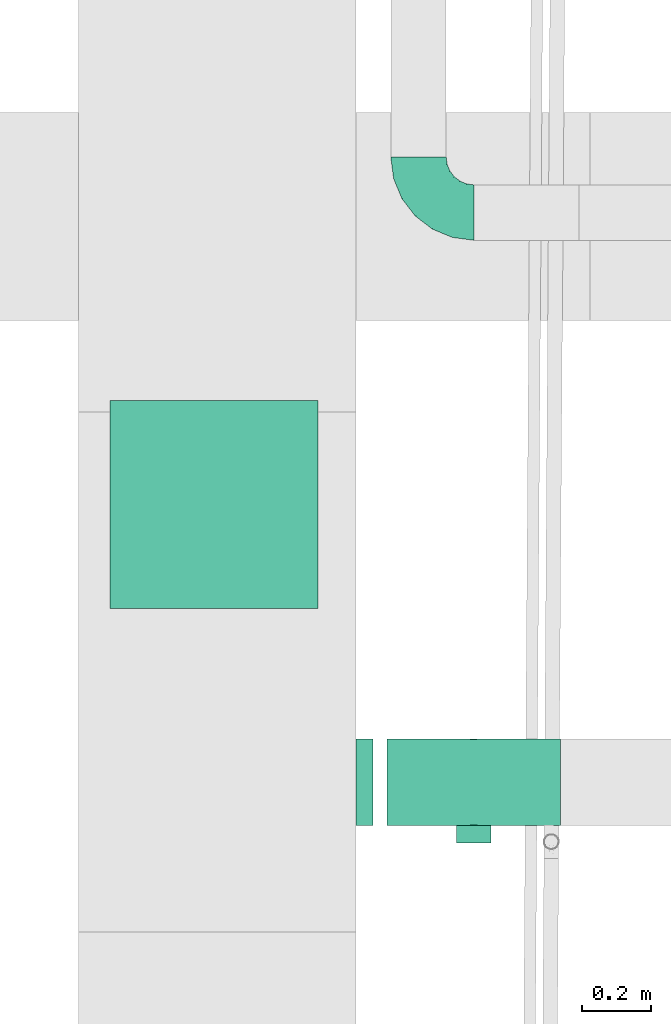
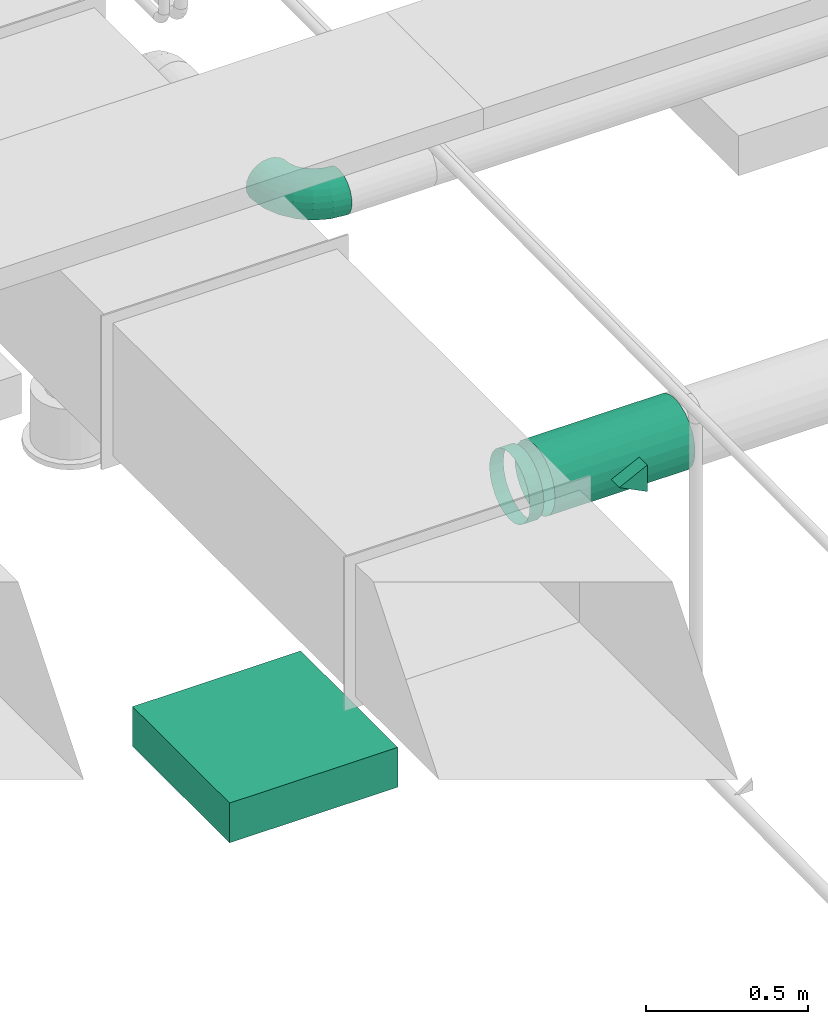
# One storey, part 160 of 374: 1 distribution element, 1 flow controller, 1 flow fitting, 1 flow segment.
"""IFC2X3 building model written with IfcOpenShell, lengths in metres."""

from ifc_helpers import new_model, si_unit, direction, frame, frame_2d, origin, place, context, subcontext, project, spatial, rectangle, extrude, open_shell, surface_model, source, transform, mapped, element, save


model = new_model("IFC2X3")

# Units and contexts
model_context = context("Model", 3, precision=1e-05, world=origin(), true_north=direction((-0.4480736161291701, 0.8939966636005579)))
body_context = subcontext(model_context, "Body", "Model", "MODEL_VIEW")
ifc_project = project(units=[si_unit("LENGTHUNIT", "METRE"), si_unit("AREAUNIT", "SQUARE_METRE"), si_unit("VOLUMEUNIT", "CUBIC_METRE"), si_unit("PLANEANGLEUNIT", "RADIAN"), si_unit("THERMODYNAMICTEMPERATUREUNIT", "KELVIN"), si_unit("MASSUNIT", "GRAM", prefix="KILO"), si_unit("TIMEUNIT", "SECOND")], contexts=[model_context])

# Site, building, storey
site_placement = place(None, origin())
site = spatial("IfcSite", under=ifc_project, at=site_placement, Name="Site 1", CompositionType="ELEMENT")
building_placement = place(site_placement, origin())
building = spatial("IfcBuilding", under=site, at=building_placement, Name="Undefined", CompositionType="ELEMENT")
storey_placement = place(building_placement, origin())
storey = spatial("IfcBuildingStorey", under=building, at=storey_placement, Name="Rez de chauss\x8ee", CompositionType="ELEMENT", Elevation=0.0)

# Flow fitting
shared_shape_1 = source(origin(), body_context, "Body", "SurfaceModel", [
    surface_model("IfcFaceBasedSurfaceModel", [(0.06265257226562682, -8.8817842e-16, 0.0), (0.062296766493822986, 0.02088115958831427, -7.105427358e-15), (0.0003558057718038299, 0.020881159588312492, 7.105427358e-15), (0.0, 0.0, 0.0), (-0.059474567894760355, 0.022956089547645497, -0.015896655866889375), (-0.06051773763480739, 0.002098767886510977, -0.01607928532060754), (-0.11311701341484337, 0.02696454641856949, -0.04660663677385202), (-0.11477645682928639, 0.006153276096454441, -0.04714207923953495), (-0.15691588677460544, 0.0326333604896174, -0.09003710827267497), (-0.15907851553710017, 0.01188721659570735, -0.09107150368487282), (-0.18788636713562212, 0.03957621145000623, -0.14322835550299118), (-0.1904048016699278, 0.01890983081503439, -0.14487384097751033), (-0.2039178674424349, 0.04731995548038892, -0.20255548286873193), (-0.20662048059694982, 0.026742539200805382, -0.20488255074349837), (0.061253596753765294, 0.04103889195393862, -0.0053597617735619), (0.0013989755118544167, 0.04103889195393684, -0.005359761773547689), (-0.05641614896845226, 0.04304393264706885, -0.02072097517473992), (-0.10825177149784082, 0.04691737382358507, -0.050396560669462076), (-0.15057538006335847, 0.05239524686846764, -0.09236417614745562), (-0.18050269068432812, 0.05910424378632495, -0.14376379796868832), (-0.19599420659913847, 0.06658715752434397, -0.20109262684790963), (0.05959415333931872, 0.05909948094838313, -0.01571402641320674), (0.003058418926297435, 0.05909948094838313, -0.01571402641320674), (-0.05155090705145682, 0.06099334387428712, -0.030223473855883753), (-0.10051228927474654, 0.06465200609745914, -0.058253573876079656), (-0.1404890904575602, 0.0698261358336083, -0.09789412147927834), (-0.16875695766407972, 0.0761631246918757, -0.14644367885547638), (-0.18338948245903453, 0.08323111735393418, -0.2005936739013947), (0.057431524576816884, 0.07383212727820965, -0.030357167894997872), (0.005221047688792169, 0.07383212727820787, -0.03035716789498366), (-0.0452104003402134, 0.07558110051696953, -0.04375657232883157), (-0.09042599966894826, 0.07895985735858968, -0.06964223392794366), (-0.12734438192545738, 0.08373814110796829, -0.10625008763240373), (-0.15344962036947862, 0.08959031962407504, -0.15108536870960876), (-0.16696268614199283, 0.0961175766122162, -0.20109262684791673), (0.054913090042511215, 0.0842328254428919, -0.048291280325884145), (0.007739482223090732, 0.08423282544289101, -0.04829128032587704), (-0.037826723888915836, 0.08581307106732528, -0.06039801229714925), (-0.07868026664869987, 0.08886587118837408, -0.08378642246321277), (-0.11203704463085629, 0.09318318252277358, -0.11686262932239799), (-0.13562384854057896, 0.09847078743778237, -0.1573725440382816), (-0.14783327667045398, 0.10436834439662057, -0.20255548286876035), (0.05221047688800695, 0.0895927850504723, -0.06829418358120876), (0.010442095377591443, 0.08959278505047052, -0.06829418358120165), (-0.029903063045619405, 0.09099196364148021, -0.07901370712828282), (-0.06607554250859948, 0.09369496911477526, -0.0997222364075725), (-0.0956102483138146, 0.0975175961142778, -0.12900851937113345), (-0.11649443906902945, 0.10219933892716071, -0.16487674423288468), (-0.12730489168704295, 0.1074211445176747, -0.2048825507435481), (0.04950786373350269, 0.08954673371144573, -0.08900271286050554), (0.013144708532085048, 0.08954673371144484, -0.08900271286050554), (-0.02197940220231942, 0.09076484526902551, -0.09833502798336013), (-0.05347081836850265, 0.09311805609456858, -0.11636367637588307), (-0.0791834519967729, 0.09644599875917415, -0.14186003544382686), (-0.09736502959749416, 0.10052187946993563, -0.17308657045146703), (-0.10677650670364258, 0.1050679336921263, -0.20791524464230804), (0.04698942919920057, 0.08409780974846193, -0.10900561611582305), (0.015663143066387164, 0.08409780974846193, -0.10900561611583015), (-0.014595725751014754, 0.08514719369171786, -0.11704525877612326), (-0.0417250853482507, 0.0871744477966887, -0.13257665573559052), (-0.06387611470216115, 0.09004141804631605, -0.15454136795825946), (-0.07953925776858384, 0.09355272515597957, -0.1814425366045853), (-0.08764709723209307, 0.09746907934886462, -0.21144689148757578), (0.04482680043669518, 0.0736173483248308, -0.12693972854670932), (0.017825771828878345, 0.0736173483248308, -0.12693972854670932), (-0.008255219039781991, 0.07452184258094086, -0.13386932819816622), (-0.03163879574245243, 0.0762691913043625, -0.14725628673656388), (-0.050731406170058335, 0.07874031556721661, -0.1661883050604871), (-0.06423192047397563, 0.08176681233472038, -0.18937519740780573), (-0.07122030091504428, 0.08514243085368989, -0.21523681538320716), (0.04316735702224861, 0.058819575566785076, -0.14158287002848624), (0.019485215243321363, 0.058819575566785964, -0.14158287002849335), (-0.0033899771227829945, 0.05961289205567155, -0.14766070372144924), (-0.02389931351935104, 0.06114546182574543, -0.15940217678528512), (-0.04064511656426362, 0.06331284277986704, -0.17600712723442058), (-0.052486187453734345, 0.06596733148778, -0.19634395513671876), (-0.05861557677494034, 0.06892802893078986, -0.2190267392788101), (0.04212418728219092, 0.040712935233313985, -0.15193713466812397), (0.020528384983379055, 0.040712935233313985, -0.15193713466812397), (-0.0003315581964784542, 0.041436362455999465, -0.15747952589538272), (-0.019034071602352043, 0.04283391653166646, -0.16818660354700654), (-0.03430460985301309, 0.04481035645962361, -0.1833286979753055), (-0.04510251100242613, 0.047230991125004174, -0.20187390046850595), (-0.05069191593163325, 0.04993085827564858, -0.22255838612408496), (0.04176838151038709, 0.02053136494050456, -0.15729689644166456), (0.020884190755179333, 0.02053136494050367, -0.15729689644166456), (0.0007116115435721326, 0.021230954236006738, -0.16265665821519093), (-0.017374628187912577, 0.022582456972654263, -0.17301092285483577), (-0.03214198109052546, 0.024493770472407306, -0.1876540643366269), (-0.042584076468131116, 0.026834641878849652, -0.20558817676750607), (-0.04798930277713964, 0.02944554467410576, -0.22559108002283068), (0.04212418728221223, -0.000349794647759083, -0.15729689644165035), (0.020528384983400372, -0.000349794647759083, -0.15729689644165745), (-0.0003315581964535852, 0.00037363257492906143, -0.1628392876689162), (-0.019034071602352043, 0.0017711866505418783, -0.17354636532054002), (-0.03430460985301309, 0.0037476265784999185, -0.18868845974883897), (-0.04510251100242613, 0.00616826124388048, -0.20723366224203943), (-0.05069191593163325, 0.008868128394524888, -0.22791814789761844), (0.04316735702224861, -0.020507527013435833, -0.15193713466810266), (0.019485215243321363, -0.020507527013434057, -0.15193713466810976), (-0.0033899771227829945, -0.019714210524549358, -0.15801496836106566), (-0.02389931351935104, -0.01818164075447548, -0.16975644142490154), (-0.04064511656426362, -0.01601425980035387, -0.186361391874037), (-0.052486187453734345, -0.013359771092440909, -0.20669821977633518), (-0.05861557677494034, -0.010399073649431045, -0.22938100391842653), (0.04482680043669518, -0.03856811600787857, -0.1415828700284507), (0.017825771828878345, -0.03856811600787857, -0.1415828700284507), (-0.008255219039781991, -0.03766362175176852, -0.1485124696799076), (-0.03163879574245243, -0.03591627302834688, -0.16189942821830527), (-0.050731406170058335, -0.03344514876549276, -0.1808314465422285), (-0.06423192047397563, -0.030418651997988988, -0.20401833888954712), (-0.07122030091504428, -0.027043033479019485, -0.22987995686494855), (0.04698942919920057, -0.05330076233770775, -0.12693972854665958), (0.015663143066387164, -0.05330076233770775, -0.12693972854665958), (-0.014595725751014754, -0.05225137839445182, -0.1349793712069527), (-0.0417250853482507, -0.05022412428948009, -0.15051076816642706), (-0.06387611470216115, -0.047357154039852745, -0.172475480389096), (-0.07953925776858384, -0.043845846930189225, -0.19937664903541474), (-0.08764709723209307, -0.03992949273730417, -0.2293810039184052), (0.04950786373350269, -0.06370146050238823, -0.10900561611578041), (0.013144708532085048, -0.06370146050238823, -0.10900561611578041), (-0.02197940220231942, -0.06248334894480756, -0.11833793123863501), (-0.05347081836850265, -0.06013013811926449, -0.13636657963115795), (-0.0791834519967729, -0.05680219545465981, -0.16186293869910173), (-0.09736502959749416, -0.05272631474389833, -0.1930894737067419), (-0.10677650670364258, -0.04818026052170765, -0.2279181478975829), (0.05221047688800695, -0.06906142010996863, -0.08900271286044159), (0.010442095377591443, -0.06906142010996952, -0.08900271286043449), (-0.029903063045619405, -0.06766224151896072, -0.09972223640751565), (-0.06607554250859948, -0.06495923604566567, -0.12043076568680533), (-0.0956102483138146, -0.06113660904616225, -0.14971704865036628), (-0.11649443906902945, -0.05645486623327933, -0.1855852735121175), (-0.12730489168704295, -0.05123306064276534, -0.22559108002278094), (0.054913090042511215, -0.06901536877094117, -0.06829418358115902), (0.007739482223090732, -0.06901536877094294, -0.06829418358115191), (-0.037826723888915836, -0.06743512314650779, -0.08040091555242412), (-0.07868026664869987, -0.06438232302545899, -0.10378932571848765), (-0.11203704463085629, -0.06006501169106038, -0.13686553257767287), (-0.13562384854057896, -0.0547774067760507, -0.17737544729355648), (-0.14783327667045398, -0.04887984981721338, -0.22255838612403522), (0.057431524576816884, -0.06356644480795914, -0.0482912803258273), (0.005221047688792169, -0.06356644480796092, -0.04829128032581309), (-0.0452104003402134, -0.061817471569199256, -0.0616906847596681), (-0.09042599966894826, -0.05843871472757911, -0.0875763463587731), (-0.12734438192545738, -0.05366043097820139, -0.12418420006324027), (-0.15344962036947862, -0.04780825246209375, -0.1690194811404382), (-0.16696268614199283, -0.041280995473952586, -0.21902673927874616), (0.05959415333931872, -0.05308598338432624, -0.030357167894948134), (0.003058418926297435, -0.05308598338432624, -0.030357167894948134), (-0.05155090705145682, -0.05119212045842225, -0.04486661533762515), (-0.10051228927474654, -0.04753345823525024, -0.07289671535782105), (-0.1404890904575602, -0.04235932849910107, -0.11253726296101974), (-0.16875695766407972, -0.03602233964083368, -0.16108682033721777), (-0.18338948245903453, -0.02895434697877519, -0.2152368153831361), (0.061253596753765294, -0.03828821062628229, -0.015714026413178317), (0.0013989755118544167, -0.03828821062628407, -0.015714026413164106), (-0.05641614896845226, -0.03628316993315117, -0.031075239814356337), (-0.10825177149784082, -0.03240972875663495, -0.06075082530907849), (-0.15057538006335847, -0.026931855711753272, -0.10271844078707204), (-0.18050269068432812, -0.02022285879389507, -0.15411806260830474), (-0.19599420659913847, -0.012739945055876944, -0.21144689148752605), (0.062296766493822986, -0.020181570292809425, -0.005359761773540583), (0.0003558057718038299, -0.020181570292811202, -0.0053597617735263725), (-0.059474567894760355, -0.018106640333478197, -0.021256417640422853), (-0.11311701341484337, -0.014098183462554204, -0.051966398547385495), (-0.15691588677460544, -0.00842936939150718, -0.09539687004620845), (-0.18788636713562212, -0.0014865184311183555, -0.14858811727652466), (-0.2039178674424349, 0.006257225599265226, -0.2079152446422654)], [open_shell([[[0, 1, 2, 3]], [[3, 2, 4, 5]], [[5, 4, 6, 7]], [[7, 6, 8, 9]], [[9, 8, 10, 11]], [[11, 10, 12, 13]], [[1, 14, 15, 2]], [[2, 15, 16, 4]], [[4, 16, 17, 6]], [[6, 17, 18, 8]], [[8, 18, 19, 10]], [[10, 19, 20, 12]], [[14, 21, 22, 15]], [[15, 22, 23, 16]], [[16, 23, 24, 17]], [[17, 24, 25, 18]], [[18, 25, 26, 19]], [[19, 26, 27, 20]], [[21, 28, 29, 22]], [[22, 29, 30, 23]], [[23, 30, 31, 24]], [[24, 31, 32, 25]], [[25, 32, 33, 26]], [[26, 33, 34, 27]], [[28, 35, 36, 29]], [[29, 36, 37, 30]], [[30, 37, 38, 31]], [[31, 38, 39, 32]], [[32, 39, 40, 33]], [[33, 40, 41, 34]], [[35, 42, 43, 36]], [[36, 43, 44, 37]], [[37, 44, 45, 38]], [[38, 45, 46, 39]], [[39, 46, 47, 40]], [[40, 47, 48, 41]], [[42, 49, 50, 43]], [[43, 50, 51, 44]], [[44, 51, 52, 45]], [[45, 52, 53, 46]], [[46, 53, 54, 47]], [[47, 54, 55, 48]], [[49, 56, 57, 50]], [[50, 57, 58, 51]], [[51, 58, 59, 52]], [[52, 59, 60, 53]], [[53, 60, 61, 54]], [[54, 61, 62, 55]], [[56, 63, 64, 57]], [[57, 64, 65, 58]], [[58, 65, 66, 59]], [[59, 66, 67, 60]], [[60, 67, 68, 61]], [[61, 68, 69, 62]], [[63, 70, 71, 64]], [[64, 71, 72, 65]], [[65, 72, 73, 66]], [[66, 73, 74, 67]], [[67, 74, 75, 68]], [[68, 75, 76, 69]], [[70, 77, 78, 71]], [[71, 78, 79, 72]], [[72, 79, 80, 73]], [[73, 80, 81, 74]], [[74, 81, 82, 75]], [[75, 82, 83, 76]], [[77, 84, 85, 78]], [[78, 85, 86, 79]], [[79, 86, 87, 80]], [[80, 87, 88, 81]], [[81, 88, 89, 82]], [[82, 89, 90, 83]], [[84, 91, 92, 85]], [[85, 92, 93, 86]], [[86, 93, 94, 87]], [[87, 94, 95, 88]], [[88, 95, 96, 89]], [[89, 96, 97, 90]], [[91, 98, 99, 92]], [[92, 99, 100, 93]], [[93, 100, 101, 94]], [[94, 101, 102, 95]], [[95, 102, 103, 96]], [[96, 103, 104, 97]], [[98, 105, 106, 99]], [[99, 106, 107, 100]], [[100, 107, 108, 101]], [[101, 108, 109, 102]], [[102, 109, 110, 103]], [[103, 110, 111, 104]], [[105, 112, 113, 106]], [[106, 113, 114, 107]], [[107, 114, 115, 108]], [[108, 115, 116, 109]], [[109, 116, 117, 110]], [[110, 117, 118, 111]], [[112, 119, 120, 113]], [[113, 120, 121, 114]], [[114, 121, 122, 115]], [[115, 122, 123, 116]], [[116, 123, 124, 117]], [[117, 124, 125, 118]], [[119, 126, 127, 120]], [[120, 127, 128, 121]], [[121, 128, 129, 122]], [[122, 129, 130, 123]], [[123, 130, 131, 124]], [[124, 131, 132, 125]], [[126, 133, 134, 127]], [[127, 134, 135, 128]], [[128, 135, 136, 129]], [[129, 136, 137, 130]], [[130, 137, 138, 131]], [[131, 138, 139, 132]], [[133, 140, 141, 134]], [[134, 141, 142, 135]], [[135, 142, 143, 136]], [[136, 143, 144, 137]], [[137, 144, 145, 138]], [[138, 145, 146, 139]], [[140, 147, 148, 141]], [[141, 148, 149, 142]], [[142, 149, 150, 143]], [[143, 150, 151, 144]], [[144, 151, 152, 145]], [[145, 152, 153, 146]], [[147, 154, 155, 148]], [[148, 155, 156, 149]], [[149, 156, 157, 150]], [[150, 157, 158, 151]], [[151, 158, 159, 152]], [[152, 159, 160, 153]], [[154, 161, 162, 155]], [[155, 162, 163, 156]], [[156, 163, 164, 157]], [[157, 164, 165, 158]], [[158, 165, 166, 159]], [[159, 166, 167, 160]], [[161, 0, 3, 162]], [[162, 3, 5, 163]], [[163, 5, 7, 164]], [[164, 7, 9, 165]], [[165, 9, 11, 166]], [[166, 11, 13, 167]]])]),
])
flow_fitting_placement = place(storey_placement, origin())
element("IfcFlowFitting", 1, at=flow_fitting_placement, inside=storey, Name="Coude", ObjectType="Coude", context=body_context, shape_type="MappedRepresentation", body=[
    mapped(shared_shape_1, transform((52.61378554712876, 15.883176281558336, 3.8000000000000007), x_axis=(0.9914448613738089, -0.13052619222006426, 0.0), y_axis=(0.016893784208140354, 0.12832103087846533, 0.9915887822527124), z_axis=(-0.1294283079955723, -0.9831056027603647, 0.12942830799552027))),
])

# Flow controller
shared_shape_2 = source(origin(), body_context, "Body", "SurfaceModel", [
    surface_model("IfcFaceBasedSurfaceModel", [(0.125, 0.032631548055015, 0.0), (0.0, 0.03263154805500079, 0.0), (0.0, 0.0, 0.0), (0.1292592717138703, 0.0, 0.0), (0.0, -0.031519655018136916, -0.008445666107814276), (0.14174682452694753, -0.03151965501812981, -0.008445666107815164), (0.0, -0.05977940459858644, -0.024761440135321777), (0.16161165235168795, -0.05977940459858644, -0.024761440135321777), (0.0, -0.08285339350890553, -0.047835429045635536), (0.1875, -0.08285339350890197, -0.047835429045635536), (0.0, -0.09916916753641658, -0.07609517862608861), (0.21764761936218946, -0.09916916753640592, -0.07609517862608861), (0.0, -0.1076148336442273, -0.10761483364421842), (0.25, -0.1076148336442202, -0.1076148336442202), (0.0, -0.1076148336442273, -0.14024638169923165), (0.28235238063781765, -0.10761483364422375, -0.14024638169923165), (0.0, -0.09916916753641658, -0.17176603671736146), (0.3125, -0.09916916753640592, -0.17176603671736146), (0.0, -0.08285339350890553, -0.2000257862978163), (0.33838834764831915, -0.08285339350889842, -0.2000257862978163), (0.0, -0.059779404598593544, -0.22309977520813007), (0.35825317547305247, -0.05977940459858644, -0.22309977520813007), (0.0, -0.03151965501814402, -0.23941554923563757), (0.3707407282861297, -0.03151965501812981, -0.23941554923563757), (0.0, -1.4210854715e-14, -0.24786121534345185), (0.375, 0.0, -0.24786121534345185), (0.0, 0.03263154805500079, -0.24786121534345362), (0.3707407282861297, 0.03263154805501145, -0.24786121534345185), (0.0, 0.0641512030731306, -0.23941554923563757), (0.35825317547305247, 0.06415120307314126, -0.23941554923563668), (0.0, 0.09241095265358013, -0.22309977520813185), (0.33838834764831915, 0.09241095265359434, -0.22309977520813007), (0.0, 0.11548494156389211, -0.2000257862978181), (0.3125, 0.11548494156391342, -0.2000257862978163), (0.0, 0.13180071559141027, -0.171766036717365), (0.28235238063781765, 0.13180071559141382, -0.17176603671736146), (0.0, 0.140246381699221, -0.1402463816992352), (0.25, 0.14024638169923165, -0.14024638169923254), (0.0, 0.140246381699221, -0.10761483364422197), (0.21764761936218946, 0.14024638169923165, -0.10761483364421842), (0.0, 0.13180071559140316, -0.07609517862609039), (0.1875, 0.13180071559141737, -0.0760951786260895), (0.0, 0.11548494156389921, -0.04783542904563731), (0.16161165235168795, 0.11548494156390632, -0.047835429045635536), (0.0, 0.09241095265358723, -0.024761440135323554), (0.14174682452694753, 0.09241095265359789, -0.024761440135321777), (0.0, 0.06415120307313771, -0.008445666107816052), (0.1292592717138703, 0.06415120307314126, -0.008445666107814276), (0.5, 0.032631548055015, 0.0), (0.5, 0.0, 0.0), (0.5, -0.03151965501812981, -0.008445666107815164), (0.5, -0.05977940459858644, -0.024761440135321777), (0.5, -0.08285339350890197, -0.047835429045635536), (0.5, -0.09916916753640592, -0.07609517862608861), (0.5, -0.1076148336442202, -0.1076148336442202), (0.5, -0.10761483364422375, -0.14024638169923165), (0.5, -0.09916916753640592, -0.17176603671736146), (0.5, -0.08285339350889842, -0.2000257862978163), (0.5, -0.05977940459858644, -0.22309977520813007), (0.5, -0.03151965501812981, -0.23941554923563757), (0.5, 0.0, -0.24786121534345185), (0.5, 0.03263154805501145, -0.24786121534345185), (0.5, 0.06415120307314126, -0.23941554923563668), (0.5, 0.09241095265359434, -0.22309977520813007), (0.5, 0.11548494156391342, -0.2000257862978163), (0.5, 0.13180071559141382, -0.17176603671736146), (0.5, 0.14024638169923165, -0.14024638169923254), (0.5, 0.14024638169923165, -0.10761483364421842), (0.5, 0.13180071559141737, -0.0760951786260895), (0.5, 0.11548494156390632, -0.047835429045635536), (0.5, 0.09241095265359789, -0.024761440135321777), (0.5, 0.06415120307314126, -0.008445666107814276), (0.25, 0.14187795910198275, -0.1278533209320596), (0.24676476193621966, 0.14182236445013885, -0.12827560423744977), (0.24676476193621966, -0.106038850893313, -0.09564405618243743), (0.25, -0.10598325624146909, -0.09522177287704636), (0.24374999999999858, 0.14165936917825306, -0.12951367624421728), (0.24374999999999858, -0.10620184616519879, -0.09688212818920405), (0.2411611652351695, 0.14140008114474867, -0.13148316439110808), (0.2411611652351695, -0.10646113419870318, -0.09885161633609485), (0.2391746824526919, 0.14106217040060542, -0.1340498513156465), (0.2391746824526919, -0.10679904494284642, -0.10141830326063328), (0.23792592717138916, 0.14066866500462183, -0.13703882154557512), (0.23792592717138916, -0.10719255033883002, -0.10440727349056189), (0.23750000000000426, 0.14024638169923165, -0.14024638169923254), (0.23750000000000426, -0.1076148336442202, -0.1076148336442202), (0.23792592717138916, 0.13982409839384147, -0.14345394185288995), (0.23792592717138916, -0.10803711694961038, -0.11082239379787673), (0.2391746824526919, 0.13943059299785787, -0.14644291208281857), (0.2391746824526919, -0.10843062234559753, -0.11381136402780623), (0.2411611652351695, 0.13909268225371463, -0.149009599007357), (0.2411611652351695, -0.10876853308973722, -0.11637805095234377), (0.24374999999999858, 0.13883339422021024, -0.1509790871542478), (0.24374999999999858, -0.10902782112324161, -0.11834753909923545), (0.24676476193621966, 0.13867039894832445, -0.15221715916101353), (0.24676476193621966, -0.1091908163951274, -0.11958561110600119), (0.25, 0.13861480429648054, -0.1526394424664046), (0.25, -0.1092464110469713, -0.12000789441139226), (0.25323523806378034, 0.13867039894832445, -0.15221715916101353), (0.25323523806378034, -0.1091908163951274, -0.11958561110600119), (0.2562500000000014, 0.13883339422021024, -0.1509790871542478), (0.2562500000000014, -0.10902782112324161, -0.11834753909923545), (0.2588388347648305, 0.13909268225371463, -0.149009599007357), (0.2588388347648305, -0.10876853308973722, -0.11637805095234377), (0.2608253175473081, 0.13943059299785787, -0.14644291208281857), (0.2608253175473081, -0.10843062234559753, -0.11381136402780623), (0.26207407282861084, 0.13982409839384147, -0.14345394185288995), (0.26207407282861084, -0.10803711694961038, -0.11082239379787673), (0.26250000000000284, 0.14024638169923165, -0.14024638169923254), (0.26250000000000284, -0.1076148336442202, -0.1076148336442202), (0.26207407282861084, 0.14066866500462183, -0.13703882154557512), (0.26207407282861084, -0.10719255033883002, -0.10440727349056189), (0.2608253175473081, 0.14106217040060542, -0.1340498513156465), (0.2608253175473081, -0.10679904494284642, -0.10141830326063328), (0.2588388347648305, 0.14140008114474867, -0.13148316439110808), (0.2588388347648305, -0.10646113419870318, -0.09885161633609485), (0.2562500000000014, 0.14165936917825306, -0.12951367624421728), (0.2562500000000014, -0.10620184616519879, -0.09688212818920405), (0.25323523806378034, 0.14182236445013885, -0.12827560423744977), (0.25323523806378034, -0.106038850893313, -0.09564405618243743), (0.30000000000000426, -0.11414114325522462, -0.1571870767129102), (0.30000000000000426, -0.10108852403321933, -0.05804259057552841), (0.30000000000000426, -0.15066076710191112, -0.05151628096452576), (0.30000000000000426, -0.1637133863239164, -0.15066076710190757), (0.20000000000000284, -0.1076148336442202, -0.1076148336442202), (0.20000000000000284, -0.157187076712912, -0.10108852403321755)], [open_shell([[[0, 1, 2, 3]], [[3, 2, 4, 5]], [[5, 4, 6, 7]], [[7, 6, 8, 9]], [[9, 8, 10, 11]], [[11, 10, 12, 13]], [[13, 12, 14, 15]], [[15, 14, 16, 17]], [[17, 16, 18, 19]], [[19, 18, 20, 21]], [[21, 20, 22, 23]], [[23, 22, 24, 25]], [[25, 24, 26, 27]], [[27, 26, 28, 29]], [[29, 28, 30, 31]], [[31, 30, 32, 33]], [[33, 32, 34, 35]], [[35, 34, 36, 37]], [[37, 36, 38, 39]], [[39, 38, 40, 41]], [[41, 40, 42, 43]], [[43, 42, 44, 45]], [[45, 44, 46, 47]], [[47, 46, 1, 0]], [[48, 0, 3, 49]], [[49, 3, 5, 50]], [[50, 5, 7, 51]], [[51, 7, 9, 52]], [[52, 9, 11, 53]], [[53, 11, 13, 54]], [[54, 13, 15, 55]], [[55, 15, 17, 56]], [[56, 17, 19, 57]], [[57, 19, 21, 58]], [[58, 21, 23, 59]], [[59, 23, 25, 60]], [[60, 25, 27, 61]], [[61, 27, 29, 62]], [[62, 29, 31, 63]], [[63, 31, 33, 64]], [[64, 33, 35, 65]], [[65, 35, 37, 66]], [[66, 37, 39, 67]], [[67, 39, 41, 68]], [[68, 41, 43, 69]], [[69, 43, 45, 70]], [[70, 45, 47, 71]], [[71, 47, 0, 48]], [[72, 73, 74, 75]], [[73, 76, 77, 74]], [[76, 78, 79, 77]], [[78, 80, 81, 79]], [[80, 82, 83, 81]], [[82, 84, 85, 83]], [[84, 86, 87, 85]], [[86, 88, 89, 87]], [[88, 90, 91, 89]], [[90, 92, 93, 91]], [[92, 94, 95, 93]], [[94, 96, 97, 95]], [[96, 98, 99, 97]], [[98, 100, 101, 99]], [[100, 102, 103, 101]], [[102, 104, 105, 103]], [[104, 106, 107, 105]], [[106, 108, 109, 107]], [[108, 110, 111, 109]], [[110, 112, 113, 111]], [[112, 114, 115, 113]], [[114, 116, 117, 115]], [[116, 118, 119, 117]], [[118, 72, 75, 119]], [[37, 73, 72]], [[37, 76, 73]], [[37, 78, 76]], [[37, 80, 78]], [[37, 82, 80]], [[37, 84, 82]], [[37, 86, 84]], [[37, 88, 86]], [[37, 90, 88]], [[37, 92, 90]], [[37, 94, 92]], [[37, 96, 94]], [[37, 98, 96]], [[37, 100, 98]], [[37, 102, 100]], [[37, 104, 102]], [[37, 106, 104]], [[37, 108, 106]], [[37, 110, 108]], [[37, 112, 110]], [[37, 114, 112]], [[37, 116, 114]], [[37, 118, 116]], [[37, 72, 118]], [[13, 119, 75]], [[13, 117, 119]], [[13, 115, 117]], [[13, 113, 115]], [[13, 111, 113]], [[13, 109, 111]], [[13, 107, 109]], [[13, 105, 107]], [[13, 103, 105]], [[13, 101, 103]], [[13, 99, 101]], [[13, 97, 99]], [[13, 95, 97]], [[13, 93, 95]], [[13, 91, 93]], [[13, 89, 91]], [[13, 87, 89]], [[13, 85, 87]], [[13, 83, 85]], [[13, 81, 83]], [[13, 79, 81]], [[13, 77, 79]], [[13, 74, 77]], [[13, 75, 74]], [[120, 121, 122, 123]], [[121, 124, 125, 122]], [[124, 120, 123, 125]], [[123, 122, 125]], [[124, 121, 120]]])]),
])
flow_controller_placement = place(storey_placement, origin())
element("IfcFlowController", 2, at=flow_controller_placement, inside=storey, Name="Clapet de réglage cylindrique", ObjectType="Clapet de réglage cylindrique", context=body_context, shape_type="MappedRepresentation", body=[
    mapped(shared_shape_2, transform((52.42499507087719, 14.278791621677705, 3.920740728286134), x_axis=(1.0, 0.0, 0.0), y_axis=(0.0, 0.9914448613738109, 0.1305261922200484), z_axis=(0.0, -0.1305261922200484, 0.9914448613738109))),
])

# Flow segment
shared_shape_3 = source(origin(), body_context, "Body", "SurfaceModel", [
    surface_model("IfcFaceBasedSurfaceModel", [(0.0, 0.03263154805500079, 0.0), (0.0, 0.0, 0.0), (0.05000000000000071, 0.0, 0.0), (0.05000000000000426, 0.03263154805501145, -1.11022302e-16), (0.0, -0.031519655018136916, -0.008445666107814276), (0.05000000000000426, -0.03151965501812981, -0.008445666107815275), (0.0, -0.05977940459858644, -0.024761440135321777), (0.05000000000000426, -0.059779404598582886, -0.024761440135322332), (0.0, -0.08285339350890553, -0.047835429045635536), (0.05000000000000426, -0.08285339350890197, -0.04783542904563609), (0.0, -0.09916916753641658, -0.07609517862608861), (0.05000000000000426, -0.09916916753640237, -0.07609517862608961), (0.0, -0.1076148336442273, -0.10761483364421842), (0.049999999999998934, -0.1076148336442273, -0.10761483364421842), (0.0, -0.1076148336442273, -0.14024638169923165), (0.05000000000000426, -0.1076148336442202, -0.14024638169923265), (0.0, -0.09916916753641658, -0.17176603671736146), (0.05000000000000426, -0.09916916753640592, -0.17176603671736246), (0.0, -0.08285339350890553, -0.2000257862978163), (0.05000000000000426, -0.08285339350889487, -0.20002578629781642), (0.0, -0.059779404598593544, -0.22309977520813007), (0.05000000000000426, -0.05977940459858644, -0.22309977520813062), (0.0, -0.03151965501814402, -0.23941554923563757), (0.05000000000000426, -0.03151965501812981, -0.23941554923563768), (0.0, -1.4210854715e-14, -0.24786121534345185), (0.05000000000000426, -3.552713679e-15, -0.24786121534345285), (0.0, 0.03263154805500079, -0.24786121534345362), (0.05000000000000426, 0.03263154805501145, -0.24786121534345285), (0.0, 0.0641512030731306, -0.23941554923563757), (0.05000000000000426, 0.06415120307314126, -0.2394155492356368), (0.0, 0.09241095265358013, -0.22309977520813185), (0.05000000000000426, 0.09241095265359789, -0.22309977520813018), (0.0, 0.11548494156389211, -0.2000257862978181), (0.05000000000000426, 0.11548494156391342, -0.20002578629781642), (0.0, 0.13180071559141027, -0.171766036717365), (0.05000000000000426, 0.13180071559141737, -0.17176603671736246), (0.0, 0.140246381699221, -0.1402463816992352), (0.04999999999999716, 0.14024638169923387, -0.14024638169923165), (0.0, 0.140246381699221, -0.10761483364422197), (0.05000000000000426, 0.1402463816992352, -0.10761483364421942), (0.0, 0.13180071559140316, -0.07609517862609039), (0.05000000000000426, 0.13180071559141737, -0.07609517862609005), (0.0, 0.11548494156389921, -0.04783542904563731), (0.05000000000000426, 0.11548494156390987, -0.04783542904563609), (0.0, 0.09241095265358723, -0.024761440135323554), (0.05000000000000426, 0.09241095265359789, -0.024761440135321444), (0.0, 0.06415120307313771, -0.008445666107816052), (0.05000000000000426, 0.06415120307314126, -0.008445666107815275)], [open_shell([[[0, 1, 2, 3]], [[1, 4, 5, 2]], [[4, 6, 7, 5]], [[6, 8, 9, 7]], [[8, 10, 11, 9]], [[10, 12, 13, 11]], [[12, 14, 15, 13]], [[14, 16, 17, 15]], [[16, 18, 19, 17]], [[18, 20, 21, 19]], [[20, 22, 23, 21]], [[22, 24, 25, 23]], [[24, 26, 27, 25]], [[26, 28, 29, 27]], [[28, 30, 31, 29]], [[30, 32, 33, 31]], [[32, 34, 35, 33]], [[34, 36, 37, 35]], [[36, 38, 39, 37]], [[38, 40, 41, 39]], [[40, 42, 43, 41]], [[42, 44, 45, 43]], [[44, 46, 47, 45]], [[46, 0, 3, 47]]])]),
])
flow_segment_placement = place(storey_placement, origin())
element("IfcFlowSegment", 3, at=flow_segment_placement, inside=storey, Name="Piquage équerre sur plat", ObjectType="Piquage équerre sur plat", context=body_context, shape_type="MappedRepresentation", body=[
    mapped(shared_shape_3, transform((52.33499507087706, 14.343496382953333, 3.679259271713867), x_axis=(1.0, 0.0, 0.0), y_axis=(0.0, -0.9914448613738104, -0.13052619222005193), z_axis=(0.0, 0.13052619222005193, -0.9914448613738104))),
])

# Distribution element
distribution_element_placement = place(storey_placement, origin())
element("IfcDistributionElement", 4, at=distribution_element_placement, inside=storey, Name="Decken-Rechteckleuchte mit Rahmen AP", ObjectType="Decken-Rechteckleuchte mit Rahmen AP", context=body_context, shape_type="SweptSolid", body=[
    extrude(rectangle(XDim=0.6000000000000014, YDim=0.6000000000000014, at=frame_2d((3.552713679e-15, 0.0), x_axis=(0.0, 1.0))), frame((51.9257634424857, 15.1125, 2.5500000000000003), z_axis=(0.0, 0.0, -1.0), x_axis=(1.0, 0.0, 0.0)), (0.0, 0.0, 1.0), 0.15),
])

save(model, "model.ifc")
